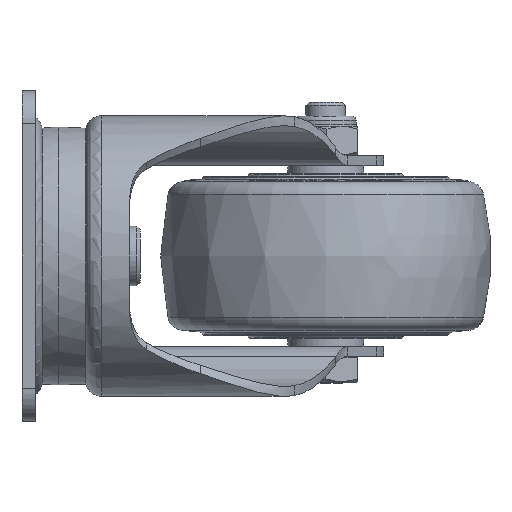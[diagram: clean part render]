
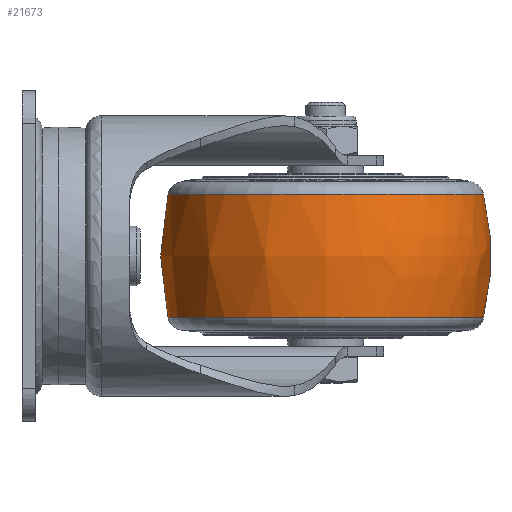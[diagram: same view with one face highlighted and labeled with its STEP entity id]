
A CAD part, left-side view. The second image highlights one B-rep face of the part: STEP entity #21673.
In plain terms, the highlighted free-form (B-spline) face has degree [2, 2] with [3, 9] control points.
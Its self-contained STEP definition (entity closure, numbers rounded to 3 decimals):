
#15=(
BOUNDED_SURFACE()
B_SPLINE_SURFACE(2,2,((#42792,#42793,#42794,#42795,#42796,#42797,#42798,
#42799,#42800),(#42801,#42802,#42803,#42804,#42805,#42806,#42807,#42808,
#42809),(#42810,#42811,#42812,#42813,#42814,#42815,#42816,#42817,#42818)),
 .UNSPECIFIED.,.F.,.T.,.F.)
B_SPLINE_SURFACE_WITH_KNOTS((3,3),(3,2,2,2,3),(-0.236,0.236),
(-3.142,-1.571,0.,1.571,3.142),
 .UNSPECIFIED.)
GEOMETRIC_REPRESENTATION_ITEM()
RATIONAL_B_SPLINE_SURFACE(((1.,0.707,1.,0.707,1.,
0.707,1.,0.707,1.),(0.972,0.687,
0.972,0.687,0.972,0.687,
0.972,0.687,0.972),(1.,0.707,
1.,0.707,1.,0.707,1.,0.707,1.)))
REPRESENTATION_ITEM('')
SURFACE()
);
#5723=FACE_OUTER_BOUND('',#7049,.T.);
#7049=EDGE_LOOP('',(#19990,#19991,#19992,#19993));
#7409=CIRCLE('',#22857,47.779);
#7411=CIRCLE('',#22859,47.779);
#7412=CIRCLE('',#22860,80.);
#10392=VERTEX_POINT('',#42789);
#10393=VERTEX_POINT('',#42819);
#13600=EDGE_CURVE('',#10392,#10392,#7409,.T.);
#13602=EDGE_CURVE('',#10393,#10393,#7411,.T.);
#13603=EDGE_CURVE('',#10393,#10392,#7412,.T.);
#19990=ORIENTED_EDGE('',*,*,#13602,.F.);
#19991=ORIENTED_EDGE('',*,*,#13603,.T.);
#19992=ORIENTED_EDGE('',*,*,#13600,.T.);
#19993=ORIENTED_EDGE('',*,*,#13603,.F.);
#21673=ADVANCED_FACE('',(#5723),#15,.F.);
#22857=AXIS2_PLACEMENT_3D('',#42790,#26771,#26772);
#22859=AXIS2_PLACEMENT_3D('',#42820,#26775,#26776);
#22860=AXIS2_PLACEMENT_3D('',#42821,#26777,#26778);
#26771=DIRECTION('center_axis',(0.,0.,
1.));
#26772=DIRECTION('ref_axis',(0.,1.,0.));
#26775=DIRECTION('center_axis',(0.,0.,
1.));
#26776=DIRECTION('ref_axis',(0.,1.,0.));
#26777=DIRECTION('center_axis',(1.,0.,0.));
#26778=DIRECTION('ref_axis',(0.,-1.,0.));
#42789=CARTESIAN_POINT('',(57.5,-139.78,-18.721));
#42790=CARTESIAN_POINT('Origin',(57.5,-92.001,-18.721));
#42792=CARTESIAN_POINT('Ctrl Pts',(57.5,-139.78,-18.721));
#42793=CARTESIAN_POINT('Ctrl Pts',(105.279,-139.78,-18.721));
#42794=CARTESIAN_POINT('Ctrl Pts',(105.279,-92.001,-18.721));
#42795=CARTESIAN_POINT('Ctrl Pts',(105.279,-44.223,-18.721));
#42796=CARTESIAN_POINT('Ctrl Pts',(57.5,-44.223,-18.721));
#42797=CARTESIAN_POINT('Ctrl Pts',(9.721,-44.223,-18.721));
#42798=CARTESIAN_POINT('Ctrl Pts',(9.721,-92.001,-18.721));
#42799=CARTESIAN_POINT('Ctrl Pts',(9.721,-139.78,-18.721));
#42800=CARTESIAN_POINT('Ctrl Pts',(57.5,-139.78,-18.721));
#42801=CARTESIAN_POINT('Ctrl Pts',(57.5,-144.286,0.));
#42802=CARTESIAN_POINT('Ctrl Pts',(109.785,-144.286,0.));
#42803=CARTESIAN_POINT('Ctrl Pts',(109.785,-92.001,0.));
#42804=CARTESIAN_POINT('Ctrl Pts',(109.785,-39.717,0.));
#42805=CARTESIAN_POINT('Ctrl Pts',(57.5,-39.717,0.));
#42806=CARTESIAN_POINT('Ctrl Pts',(5.215,-39.717,0.));
#42807=CARTESIAN_POINT('Ctrl Pts',(5.215,-92.001,0.));
#42808=CARTESIAN_POINT('Ctrl Pts',(5.215,-144.286,0.));
#42809=CARTESIAN_POINT('Ctrl Pts',(57.5,-144.286,0.));
#42810=CARTESIAN_POINT('Ctrl Pts',(57.5,-139.78,18.721));
#42811=CARTESIAN_POINT('Ctrl Pts',(105.279,-139.78,18.721));
#42812=CARTESIAN_POINT('Ctrl Pts',(105.279,-92.001,18.721));
#42813=CARTESIAN_POINT('Ctrl Pts',(105.279,-44.223,18.721));
#42814=CARTESIAN_POINT('Ctrl Pts',(57.5,-44.223,18.721));
#42815=CARTESIAN_POINT('Ctrl Pts',(9.721,-44.223,18.721));
#42816=CARTESIAN_POINT('Ctrl Pts',(9.721,-92.001,18.721));
#42817=CARTESIAN_POINT('Ctrl Pts',(9.721,-139.78,18.721));
#42818=CARTESIAN_POINT('Ctrl Pts',(57.5,-139.78,18.721));
#42819=CARTESIAN_POINT('',(57.5,-139.78,18.721));
#42820=CARTESIAN_POINT('Origin',(57.5,-92.001,18.721));
#42821=CARTESIAN_POINT('Origin',(57.5,-62.001,0.));
